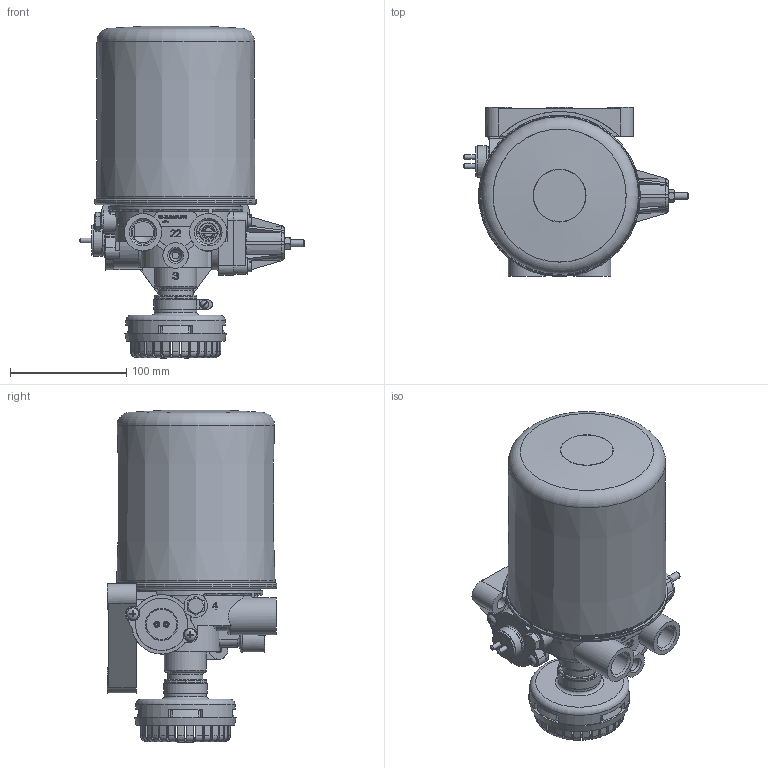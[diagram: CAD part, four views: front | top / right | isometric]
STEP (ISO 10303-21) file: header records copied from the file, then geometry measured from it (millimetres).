
FILE_DESCRIPTION(/* description */ (''),/* implementation_level */ '2;1');
FILE_NAME(/* name */ '8243.35.12.010-11-Реглятор давления с адсорбером.stp',/* time_stamp */ '2023-10-04T10:24:04+03:00',/* author */ (''),/* organization */ (''),/* preprocessor_version */ 'ST-DEVELOPER v16.7',/* originating_system */ 'SIEMENS PLM Software NX 1899',/* authorisation */ '');
FILE_SCHEMA (('AUTOMOTIVE_DESIGN { 1 0 10303 214 3 1 1 1 }'));
Length unit declared in the file: millimetre
Products named in the file (1): kuzm7F2CB1E9zppj
Bounding box: 193.1 x 145.35 x 285 mm (x, y, z)
Volume: 521426.9 mm3; surface area: 412952.2 mm2
Topology: 1 solids, 16 shells, 2029 faces, 5866 edges, 3848 vertices
Faces by surface type: plane 985, cylinder 505, torus 240, cone 180, extrusion 77, sphere 33, bspline 9
Full cylindrical faces by diameter (mm): 1.7 x2, 2 x2, 2.2 x1, 2.5 x1, 3 x2, 3.2 x3, 3.5 x2, 4 x5, 4.2 x5, 4.3 x1, 5 x6, 5.5 x2, 6 x9, 6.2 x1, 6.6 x4, 7 x1, 8 x2, 9.5 x1, 10 x7, 10.2 x1, 10.5 x6, 11.5 x2, 12 x1, 14 x1, 16 x2, 16.6 x1, 17 x1, 18.5 x1, 20 x3, 20.5 x3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
Entity records: 74363 total; most frequent: CARTESIAN_POINT 22931, ORIENTED_EDGE 10908, DIRECTION 10263, EDGE_CURVE 5454, AXIS2_PLACEMENT_3D 3855, VERTEX_POINT 3727, VECTOR 2553, EDGE_LOOP 2503
